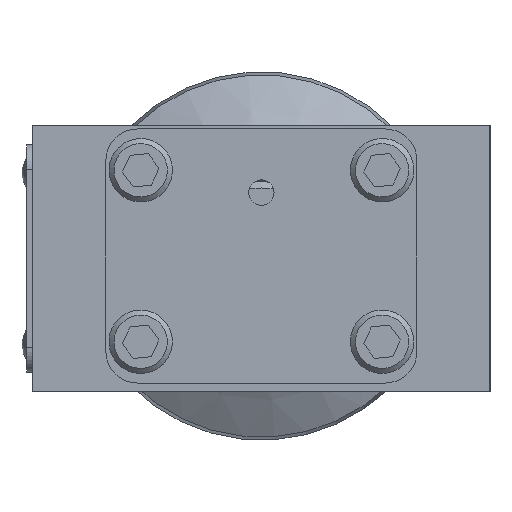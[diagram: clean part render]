
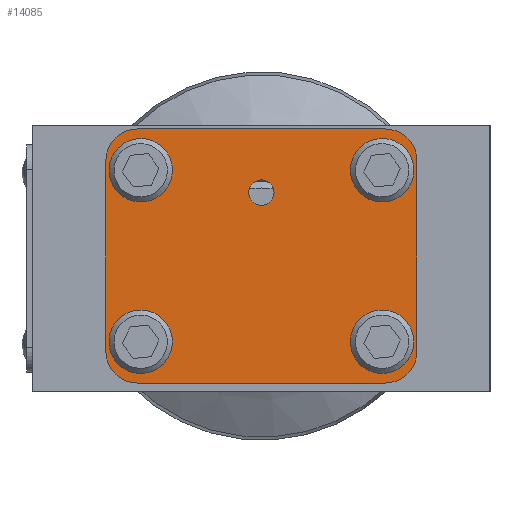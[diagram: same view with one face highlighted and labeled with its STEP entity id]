
A CAD part, left-side view. The second image highlights one B-rep face of the part: STEP entity #14085.
In plain terms, the highlighted planar face has unit normal (-1, 0, 0).
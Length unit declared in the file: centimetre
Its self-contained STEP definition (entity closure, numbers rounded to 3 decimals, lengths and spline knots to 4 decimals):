
#657=LINE('',#26123,#1415);
#665=LINE('',#26143,#1423);
#673=LINE('',#26163,#1431);
#681=LINE('',#26183,#1439);
#1415=VECTOR('',#19010,3.0963);
#1423=VECTOR('',#19026,2.3825);
#1431=VECTOR('',#19042,3.0963);
#1439=VECTOR('',#19058,2.3825);
#3245=PLANE('',#15611);
#3486=FACE_BOUND('',#5469,.T.);
#3487=FACE_BOUND('',#5470,.T.);
#3488=FACE_BOUND('',#5471,.T.);
#3489=FACE_BOUND('',#5472,.T.);
#3490=FACE_BOUND('',#5473,.T.);
#4374=FACE_OUTER_BOUND('',#5468,.T.);
#5468=EDGE_LOOP('',(#12692,#12693,#12694,#12695,#12696,#12697,#12698,#12699));
#5469=EDGE_LOOP('',(#12700));
#5470=EDGE_LOOP('',(#12701));
#5471=EDGE_LOOP('',(#12702));
#5472=EDGE_LOOP('',(#12703));
#5473=EDGE_LOOP('',(#12704));
#6303=CIRCLE('',#15554,0.3969);
#6306=CIRCLE('',#15567,0.3969);
#6309=CIRCLE('',#15580,0.3969);
#6312=CIRCLE('',#15593,0.3969);
#6314=CIRCLE('',#15597,0.1588);
#6316=CIRCLE('',#15600,0.3962);
#6318=CIRCLE('',#15603,0.3962);
#6320=CIRCLE('',#15606,0.3962);
#6322=CIRCLE('',#15609,0.3962);
#7421=VERTEX_POINT('',#26120);
#7422=VERTEX_POINT('',#26122);
#7429=VERTEX_POINT('',#26140);
#7430=VERTEX_POINT('',#26142);
#7437=VERTEX_POINT('',#26160);
#7438=VERTEX_POINT('',#26162);
#7445=VERTEX_POINT('',#26180);
#7446=VERTEX_POINT('',#26182);
#7469=VERTEX_POINT('',#26255);
#7484=VERTEX_POINT('',#26301);
#7499=VERTEX_POINT('',#26347);
#7514=VERTEX_POINT('',#26393);
#7516=VERTEX_POINT('',#26399);
#9162=EDGE_CURVE('',#7421,#7422,#657,.T.);
#9172=EDGE_CURVE('',#7429,#7430,#665,.T.);
#9182=EDGE_CURVE('',#7437,#7438,#673,.T.);
#9192=EDGE_CURVE('',#7445,#7446,#681,.T.);
#9228=EDGE_CURVE('',#7469,#7469,#6303,.T.);
#9249=EDGE_CURVE('',#7484,#7484,#6306,.T.);
#9270=EDGE_CURVE('',#7499,#7499,#6309,.T.);
#9291=EDGE_CURVE('',#7514,#7514,#6312,.T.);
#9293=EDGE_CURVE('',#7516,#7516,#6314,.T.);
#9295=EDGE_CURVE('',#7430,#7421,#6316,.T.);
#9297=EDGE_CURVE('',#7438,#7429,#6318,.T.);
#9299=EDGE_CURVE('',#7422,#7445,#6320,.T.);
#9301=EDGE_CURVE('',#7446,#7437,#6322,.T.);
#12692=ORIENTED_EDGE('',*,*,#9301,.F.);
#12693=ORIENTED_EDGE('',*,*,#9192,.F.);
#12694=ORIENTED_EDGE('',*,*,#9299,.F.);
#12695=ORIENTED_EDGE('',*,*,#9162,.F.);
#12696=ORIENTED_EDGE('',*,*,#9295,.F.);
#12697=ORIENTED_EDGE('',*,*,#9172,.F.);
#12698=ORIENTED_EDGE('',*,*,#9297,.F.);
#12699=ORIENTED_EDGE('',*,*,#9182,.F.);
#12700=ORIENTED_EDGE('',*,*,#9228,.T.);
#12701=ORIENTED_EDGE('',*,*,#9249,.T.);
#12702=ORIENTED_EDGE('',*,*,#9270,.T.);
#12703=ORIENTED_EDGE('',*,*,#9291,.T.);
#12704=ORIENTED_EDGE('',*,*,#9293,.T.);
#14085=ADVANCED_FACE('',(#4374,#3486,#3487,#3488,#3489,#3490),#3245,.T.);
#15554=AXIS2_PLACEMENT_3D('',#26256,#19129,#19130);
#15567=AXIS2_PLACEMENT_3D('',#26302,#19173,#19174);
#15580=AXIS2_PLACEMENT_3D('',#26348,#19217,#19218);
#15593=AXIS2_PLACEMENT_3D('',#26394,#19261,#19262);
#15597=AXIS2_PLACEMENT_3D('',#26400,#19269,#19270);
#15600=AXIS2_PLACEMENT_3D('',#26404,#19275,#19276);
#15603=AXIS2_PLACEMENT_3D('',#26407,#19281,#19282);
#15606=AXIS2_PLACEMENT_3D('',#26410,#19287,#19288);
#15609=AXIS2_PLACEMENT_3D('',#26413,#19293,#19294);
#15611=AXIS2_PLACEMENT_3D('',#26415,#19297,#19298);
#19010=DIRECTION('',(0.,1.,0.));
#19026=DIRECTION('',(0.,0.,-1.));
#19042=DIRECTION('',(0.,-1.,0.));
#19058=DIRECTION('',(0.,0.,1.));
#19129=DIRECTION('center_axis',(1.,0.,0.));
#19130=DIRECTION('ref_axis',(0.,-0.096,-0.995));
#19173=DIRECTION('center_axis',(1.,0.,0.));
#19174=DIRECTION('ref_axis',(0.,-0.096,-0.995));
#19217=DIRECTION('center_axis',(1.,0.,0.));
#19218=DIRECTION('ref_axis',(0.,-0.096,-0.995));
#19261=DIRECTION('center_axis',(1.,0.,0.));
#19262=DIRECTION('ref_axis',(0.,-0.096,-0.995));
#19269=DIRECTION('center_axis',(1.,0.,0.));
#19270=DIRECTION('ref_axis',(0.,-1.,0.));
#19275=DIRECTION('center_axis',(1.,0.,0.));
#19276=DIRECTION('ref_axis',(0.,-0.707,-0.707));
#19281=DIRECTION('center_axis',(1.,0.,0.));
#19282=DIRECTION('ref_axis',(0.,-0.707,0.707));
#19287=DIRECTION('center_axis',(1.,0.,0.));
#19288=DIRECTION('ref_axis',(0.,0.707,-0.707));
#19293=DIRECTION('center_axis',(1.,0.,0.));
#19294=DIRECTION('ref_axis',(0.,0.707,0.707));
#19297=DIRECTION('center_axis',(-1.,0.,0.));
#19298=DIRECTION('ref_axis',(0.,1.,0.));
#26120=CARTESIAN_POINT('',(-5.0089,-1.5481,-1.557));
#26122=CARTESIAN_POINT('',(-5.0089,1.5481,-1.557));
#26123=CARTESIAN_POINT('',(-5.0089,-1.9444,-1.557));
#26140=CARTESIAN_POINT('',(-5.0089,-1.9444,1.2217));
#26142=CARTESIAN_POINT('',(-5.0089,-1.9444,-1.1608));
#26143=CARTESIAN_POINT('',(-5.0089,-1.9444,1.618));
#26160=CARTESIAN_POINT('',(-5.0089,1.5481,1.618));
#26162=CARTESIAN_POINT('',(-5.0089,-1.5481,1.618));
#26163=CARTESIAN_POINT('',(-5.0089,1.9444,1.618));
#26180=CARTESIAN_POINT('',(-5.0089,1.9444,-1.1608));
#26182=CARTESIAN_POINT('',(-5.0089,1.9444,1.2217));
#26183=CARTESIAN_POINT('',(-5.0089,1.9444,-1.557));
#26255=CARTESIAN_POINT('',(-5.0089,1.5469,1.4974));
#26256=CARTESIAN_POINT('Origin',(-5.0089,1.5088,1.1024));
#26301=CARTESIAN_POINT('',(-5.0089,-1.4706,1.4974));
#26302=CARTESIAN_POINT('Origin',(-5.0089,-1.5088,1.1024));
#26347=CARTESIAN_POINT('',(-5.0089,-1.4706,-0.6464));
#26348=CARTESIAN_POINT('Origin',(-5.0089,-1.5088,-1.0414));
#26393=CARTESIAN_POINT('',(-5.0089,1.5469,-0.6464));
#26394=CARTESIAN_POINT('Origin',(-5.0089,1.5088,-1.0414));
#26399=CARTESIAN_POINT('',(-5.0089,0.1588,0.823));
#26400=CARTESIAN_POINT('Origin',(-5.0089,0.,0.823));
#26404=CARTESIAN_POINT('Origin',(-5.0089,-1.5481,-1.1608));
#26407=CARTESIAN_POINT('Origin',(-5.0089,-1.5481,1.2217));
#26410=CARTESIAN_POINT('Origin',(-5.0089,1.5481,-1.1608));
#26413=CARTESIAN_POINT('Origin',(-5.0089,1.5481,1.2217));
#26415=CARTESIAN_POINT('Origin',(-5.0089,0.,0.0305));
